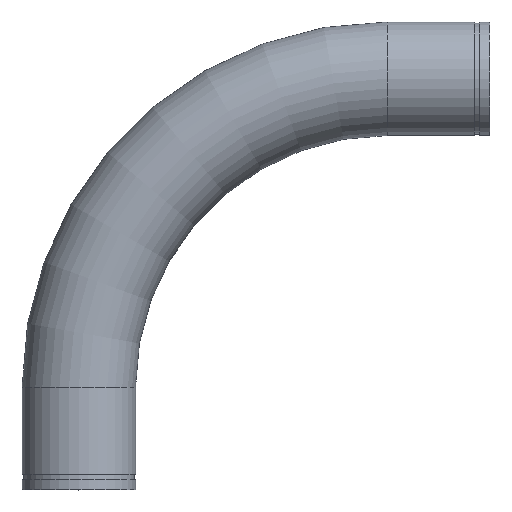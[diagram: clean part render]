
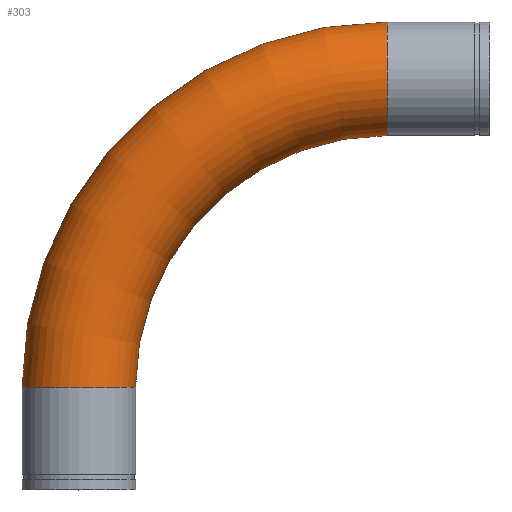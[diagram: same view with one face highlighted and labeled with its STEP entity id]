
A CAD part, top view. The second image highlights one B-rep face of the part: STEP entity #303.
In plain terms, the highlighted toroidal (fillet/blend) face has major radius 457.2 mm and minor radius 84.138 mm.
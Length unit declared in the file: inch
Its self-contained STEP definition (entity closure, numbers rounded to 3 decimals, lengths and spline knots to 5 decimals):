
#46=TOROIDAL_SURFACE('',#362,18.,3.3125);
#89=FACE_OUTER_BOUND('',#109,.T.);
#109=EDGE_LOOP('',(#252,#253,#254,#255,#256,#257));
#121=CIRCLE('',#337,3.3125);
#122=CIRCLE('',#338,3.3125);
#138=CIRCLE('',#363,14.6875);
#139=CIRCLE('',#364,3.3125);
#140=CIRCLE('',#365,3.3125);
#147=VERTEX_POINT('',#520);
#148=VERTEX_POINT('',#522);
#163=VERTEX_POINT('',#568);
#164=VERTEX_POINT('',#570);
#173=EDGE_CURVE('',#148,#147,#121,.T.);
#174=EDGE_CURVE('',#147,#148,#122,.T.);
#195=EDGE_CURVE('',#148,#163,#138,.T.);
#196=EDGE_CURVE('',#164,#163,#139,.T.);
#197=EDGE_CURVE('',#163,#164,#140,.T.);
#252=ORIENTED_EDGE('',*,*,#174,.T.);
#253=ORIENTED_EDGE('',*,*,#195,.T.);
#254=ORIENTED_EDGE('',*,*,#196,.F.);
#255=ORIENTED_EDGE('',*,*,#197,.F.);
#256=ORIENTED_EDGE('',*,*,#195,.F.);
#257=ORIENTED_EDGE('',*,*,#173,.T.);
#303=ADVANCED_FACE('',(#89),#46,.T.);
#337=AXIS2_PLACEMENT_3D('',#523,#406,#407);
#338=AXIS2_PLACEMENT_3D('',#524,#408,#409);
#362=AXIS2_PLACEMENT_3D('',#567,#461,#462);
#363=AXIS2_PLACEMENT_3D('',#569,#463,#464);
#364=AXIS2_PLACEMENT_3D('',#571,#465,#466);
#365=AXIS2_PLACEMENT_3D('',#572,#467,#468);
#406=DIRECTION('center_axis',(0.,1.,0.));
#407=DIRECTION('ref_axis',(1.,0.,0.));
#408=DIRECTION('center_axis',(0.,1.,0.));
#409=DIRECTION('ref_axis',(1.,0.,0.));
#461=DIRECTION('center_axis',(0.,0.,1.));
#462=DIRECTION('ref_axis',(1.,0.,0.));
#463=DIRECTION('center_axis',(0.,0.,-1.));
#464=DIRECTION('ref_axis',(1.,0.,0.));
#465=DIRECTION('center_axis',(1.,0.,0.));
#466=DIRECTION('ref_axis',(0.,-1.,0.));
#467=DIRECTION('center_axis',(1.,0.,0.));
#468=DIRECTION('ref_axis',(0.,-1.,0.));
#520=CARTESIAN_POINT('',(-3.3125,-18.,0.));
#522=CARTESIAN_POINT('',(3.3125,-18.,0.));
#523=CARTESIAN_POINT('Origin',(0.,-18.,0.));
#524=CARTESIAN_POINT('Origin',(0.,-18.,0.));
#567=CARTESIAN_POINT('Origin',(18.,-18.,0.));
#568=CARTESIAN_POINT('',(18.,-3.3125,0.));
#569=CARTESIAN_POINT('Origin',(18.,-18.,0.));
#570=CARTESIAN_POINT('',(18.,3.3125,0.));
#571=CARTESIAN_POINT('Origin',(18.,0.,0.));
#572=CARTESIAN_POINT('Origin',(18.,0.,0.));
